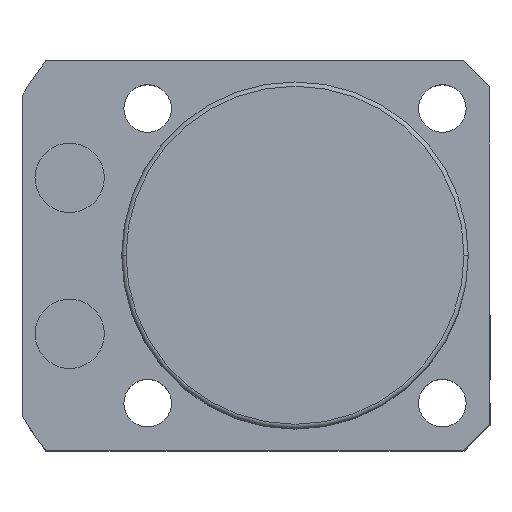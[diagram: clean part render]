
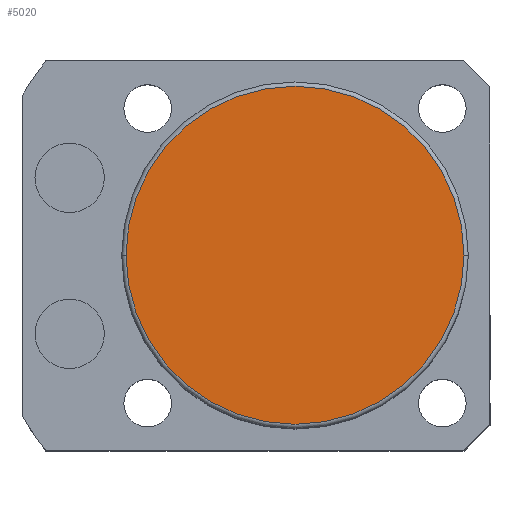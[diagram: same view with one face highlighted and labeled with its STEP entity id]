
A CAD part, top view. The second image highlights one B-rep face of the part: STEP entity #5020.
In plain terms, the highlighted planar face has unit normal (0, 0, 1).
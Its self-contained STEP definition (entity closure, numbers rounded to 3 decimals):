
#2 = CIRCLE ( 'NONE', #2434, 19.5 ) ;
#303 = EDGE_CURVE ( 'NONE', #1726, #1047, #1730, .T. ) ;
#831 = CARTESIAN_POINT ( 'NONE',  ( -19.5, 0., 48.5 ) ) ;
#885 = EDGE_CURVE ( 'NONE', #1047, #1726, #2, .T. ) ;
#933 = AXIS2_PLACEMENT_3D ( 'NONE', #4378, #4337, #2724 ) ;
#1011 = DIRECTION ( 'NONE',  ( 1., 0., 0. ) ) ;
#1047 = VERTEX_POINT ( 'NONE', #2309 ) ;
#1184 = FACE_OUTER_BOUND ( 'NONE', #2751, .T. ) ;
#1355 = ORIENTED_EDGE ( 'NONE', *, *, #885, .T. ) ;
#1726 = VERTEX_POINT ( 'NONE', #831 ) ;
#1730 = CIRCLE ( 'NONE', #2996, 19.5 ) ;
#2309 = CARTESIAN_POINT ( 'NONE',  ( 19.5, 0., 48.5 ) ) ;
#2434 = AXIS2_PLACEMENT_3D ( 'NONE', #3052, #4340, #3567 ) ;
#2657 = CARTESIAN_POINT ( 'NONE',  ( 0., 0., 48.5 ) ) ;
#2724 = DIRECTION ( 'NONE',  ( 1., 0., 0. ) ) ;
#2751 = EDGE_LOOP ( 'NONE', ( #1355, #5216 ) ) ;
#2996 = AXIS2_PLACEMENT_3D ( 'NONE', #2657, #4274, #1011 ) ;
#3052 = CARTESIAN_POINT ( 'NONE',  ( 0., 0., 48.5 ) ) ;
#3160 = PLANE ( 'NONE',  #933 ) ;
#3567 = DIRECTION ( 'NONE',  ( 1., 0., 0. ) ) ;
#4274 = DIRECTION ( 'NONE',  ( 0., 0., 1. ) ) ;
#4337 = DIRECTION ( 'NONE',  ( 0., 0., 1. ) ) ;
#4340 = DIRECTION ( 'NONE',  ( 0., 0., 1. ) ) ;
#4378 = CARTESIAN_POINT ( 'NONE',  ( 0., 0., 48.5 ) ) ;
#5020 = ADVANCED_FACE ( 'NONE', ( #1184 ), #3160, .T. ) ;
#5216 = ORIENTED_EDGE ( 'NONE', *, *, #303, .T. ) ;
